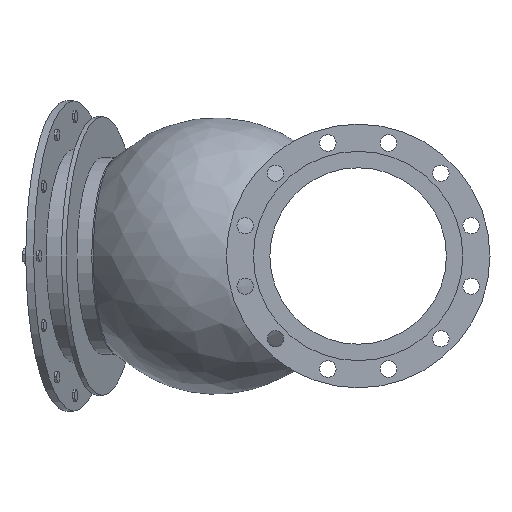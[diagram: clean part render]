
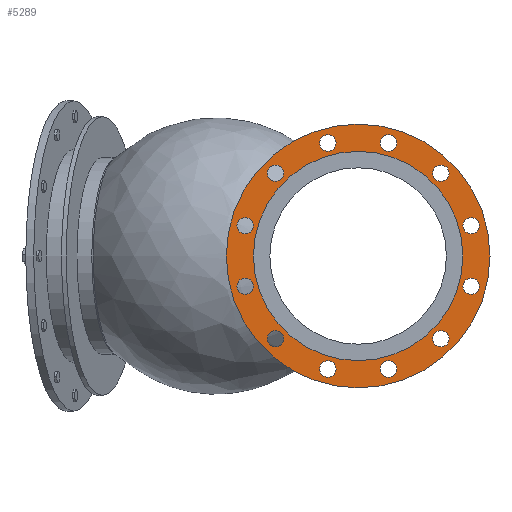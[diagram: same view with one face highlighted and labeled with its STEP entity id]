
A CAD part, left-side view. The second image highlights one B-rep face of the part: STEP entity #5289.
In plain terms, the highlighted planar face has unit normal (-1, 0, 0).
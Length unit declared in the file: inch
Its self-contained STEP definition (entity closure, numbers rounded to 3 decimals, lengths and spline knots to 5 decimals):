
#254=PLANE('',#5675);
#301=FACE_BOUND('',#966,.T.);
#302=FACE_BOUND('',#967,.T.);
#303=FACE_BOUND('',#968,.T.);
#304=FACE_BOUND('',#969,.T.);
#305=FACE_BOUND('',#970,.T.);
#306=FACE_BOUND('',#971,.T.);
#307=FACE_BOUND('',#972,.T.);
#308=FACE_BOUND('',#973,.T.);
#309=FACE_BOUND('',#974,.T.);
#310=FACE_BOUND('',#975,.T.);
#311=FACE_BOUND('',#976,.T.);
#312=FACE_BOUND('',#977,.T.);
#313=FACE_BOUND('',#978,.T.);
#657=FACE_OUTER_BOUND('',#965,.T.);
#965=EDGE_LOOP('',(#4634,#4635));
#966=EDGE_LOOP('',(#4636));
#967=EDGE_LOOP('',(#4637));
#968=EDGE_LOOP('',(#4638));
#969=EDGE_LOOP('',(#4639));
#970=EDGE_LOOP('',(#4640));
#971=EDGE_LOOP('',(#4641));
#972=EDGE_LOOP('',(#4642));
#973=EDGE_LOOP('',(#4643));
#974=EDGE_LOOP('',(#4644));
#975=EDGE_LOOP('',(#4645));
#976=EDGE_LOOP('',(#4646));
#977=EDGE_LOOP('',(#4647));
#978=EDGE_LOOP('',(#4648,#4649));
#2084=CIRCLE('',#5318,0.5);
#2086=CIRCLE('',#5321,0.5);
#2088=CIRCLE('',#5324,0.5);
#2090=CIRCLE('',#5327,0.5);
#2092=CIRCLE('',#5330,0.5);
#2094=CIRCLE('',#5333,0.5);
#2096=CIRCLE('',#5336,0.5);
#2098=CIRCLE('',#5339,0.5);
#2100=CIRCLE('',#5342,0.5);
#2102=CIRCLE('',#5345,0.5);
#2104=CIRCLE('',#5348,0.5);
#2106=CIRCLE('',#5351,0.5);
#2189=CIRCLE('',#5673,6.375);
#2190=CIRCLE('',#5674,6.375);
#2191=CIRCLE('',#5676,8.03);
#2192=CIRCLE('',#5677,8.03);
#2203=VERTEX_POINT('',#7023);
#2205=VERTEX_POINT('',#7029);
#2207=VERTEX_POINT('',#7035);
#2209=VERTEX_POINT('',#7041);
#2211=VERTEX_POINT('',#7047);
#2213=VERTEX_POINT('',#7053);
#2215=VERTEX_POINT('',#7059);
#2217=VERTEX_POINT('',#7065);
#2219=VERTEX_POINT('',#7071);
#2221=VERTEX_POINT('',#7077);
#2223=VERTEX_POINT('',#7083);
#2225=VERTEX_POINT('',#7089);
#2654=VERTEX_POINT('',#9339);
#2655=VERTEX_POINT('',#9340);
#2656=VERTEX_POINT('',#9345);
#2657=VERTEX_POINT('',#9346);
#2668=EDGE_CURVE('',#2203,#2203,#2084,.T.);
#2671=EDGE_CURVE('',#2205,#2205,#2086,.T.);
#2674=EDGE_CURVE('',#2207,#2207,#2088,.T.);
#2677=EDGE_CURVE('',#2209,#2209,#2090,.T.);
#2680=EDGE_CURVE('',#2211,#2211,#2092,.T.);
#2683=EDGE_CURVE('',#2213,#2213,#2094,.T.);
#2686=EDGE_CURVE('',#2215,#2215,#2096,.T.);
#2689=EDGE_CURVE('',#2217,#2217,#2098,.T.);
#2692=EDGE_CURVE('',#2219,#2219,#2100,.T.);
#2695=EDGE_CURVE('',#2221,#2221,#2102,.T.);
#2698=EDGE_CURVE('',#2223,#2223,#2104,.T.);
#2701=EDGE_CURVE('',#2225,#2225,#2106,.T.);
#3334=EDGE_CURVE('',#2654,#2655,#2189,.T.);
#3335=EDGE_CURVE('',#2655,#2654,#2190,.T.);
#3337=EDGE_CURVE('',#2656,#2657,#2191,.T.);
#3338=EDGE_CURVE('',#2657,#2656,#2192,.T.);
#4634=ORIENTED_EDGE('',*,*,#3337,.F.);
#4635=ORIENTED_EDGE('',*,*,#3338,.F.);
#4636=ORIENTED_EDGE('',*,*,#2668,.T.);
#4637=ORIENTED_EDGE('',*,*,#2671,.T.);
#4638=ORIENTED_EDGE('',*,*,#2674,.T.);
#4639=ORIENTED_EDGE('',*,*,#2677,.T.);
#4640=ORIENTED_EDGE('',*,*,#2680,.T.);
#4641=ORIENTED_EDGE('',*,*,#2683,.T.);
#4642=ORIENTED_EDGE('',*,*,#2686,.T.);
#4643=ORIENTED_EDGE('',*,*,#2689,.T.);
#4644=ORIENTED_EDGE('',*,*,#2692,.T.);
#4645=ORIENTED_EDGE('',*,*,#2695,.T.);
#4646=ORIENTED_EDGE('',*,*,#2698,.T.);
#4647=ORIENTED_EDGE('',*,*,#2701,.T.);
#4648=ORIENTED_EDGE('',*,*,#3334,.T.);
#4649=ORIENTED_EDGE('',*,*,#3335,.T.);
#5289=ADVANCED_FACE('',(#657,#301,#302,#303,#304,#305,#306,#307,#308,#309,
#310,#311,#312,#313),#254,.T.);
#5318=AXIS2_PLACEMENT_3D('',#7024,#5712,#5713);
#5321=AXIS2_PLACEMENT_3D('',#7030,#5719,#5720);
#5324=AXIS2_PLACEMENT_3D('',#7036,#5726,#5727);
#5327=AXIS2_PLACEMENT_3D('',#7042,#5733,#5734);
#5330=AXIS2_PLACEMENT_3D('',#7048,#5740,#5741);
#5333=AXIS2_PLACEMENT_3D('',#7054,#5747,#5748);
#5336=AXIS2_PLACEMENT_3D('',#7060,#5754,#5755);
#5339=AXIS2_PLACEMENT_3D('',#7066,#5761,#5762);
#5342=AXIS2_PLACEMENT_3D('',#7072,#5768,#5769);
#5345=AXIS2_PLACEMENT_3D('',#7078,#5775,#5776);
#5348=AXIS2_PLACEMENT_3D('',#7084,#5782,#5783);
#5351=AXIS2_PLACEMENT_3D('',#7090,#5789,#5790);
#5673=AXIS2_PLACEMENT_3D('',#9341,#6947,#6948);
#5674=AXIS2_PLACEMENT_3D('',#9342,#6949,#6950);
#5675=AXIS2_PLACEMENT_3D('',#9344,#6952,#6953);
#5676=AXIS2_PLACEMENT_3D('',#9347,#6954,#6955);
#5677=AXIS2_PLACEMENT_3D('',#9348,#6956,#6957);
#5712=DIRECTION('center_axis',(1.,0.,0.));
#5713=DIRECTION('ref_axis',(0.,0.5,0.866));
#5719=DIRECTION('center_axis',(1.,0.,0.));
#5720=DIRECTION('ref_axis',(0.,0.866,0.5));
#5726=DIRECTION('center_axis',(1.,0.,0.));
#5727=DIRECTION('ref_axis',(0.,1.,0.));
#5733=DIRECTION('center_axis',(1.,0.,0.));
#5734=DIRECTION('ref_axis',(0.,0.866,-0.5));
#5740=DIRECTION('center_axis',(1.,0.,0.));
#5741=DIRECTION('ref_axis',(0.,0.5,-0.866));
#5747=DIRECTION('center_axis',(1.,0.,0.));
#5748=DIRECTION('ref_axis',(0.,0.,-1.));
#5754=DIRECTION('center_axis',(1.,0.,0.));
#5755=DIRECTION('ref_axis',(0.,-0.5,-0.866));
#5761=DIRECTION('center_axis',(1.,0.,0.));
#5762=DIRECTION('ref_axis',(0.,-0.866,-0.5));
#5768=DIRECTION('center_axis',(1.,0.,0.));
#5769=DIRECTION('ref_axis',(0.,-1.,0.));
#5775=DIRECTION('center_axis',(1.,0.,0.));
#5776=DIRECTION('ref_axis',(0.,-0.866,0.5));
#5782=DIRECTION('center_axis',(1.,0.,0.));
#5783=DIRECTION('ref_axis',(0.,-0.5,0.866));
#5789=DIRECTION('center_axis',(1.,0.,0.));
#5790=DIRECTION('ref_axis',(0.,0.,1.));
#6947=DIRECTION('center_axis',(1.,0.,0.));
#6948=DIRECTION('ref_axis',(0.,0.,-1.));
#6949=DIRECTION('center_axis',(1.,0.,0.));
#6950=DIRECTION('ref_axis',(0.,0.,-1.));
#6952=DIRECTION('center_axis',(-1.,0.,0.));
#6953=DIRECTION('ref_axis',(0.,0.,1.));
#6954=DIRECTION('center_axis',(1.,0.,0.));
#6955=DIRECTION('ref_axis',(0.,0.,-1.));
#6956=DIRECTION('center_axis',(1.,0.,0.));
#6957=DIRECTION('ref_axis',(0.,0.,-1.));
#7023=CARTESIAN_POINT('',(-11.85,4.78814,-5.47115));
#7024=CARTESIAN_POINT('Origin',(-11.85,5.03814,-5.03814));
#7029=CARTESIAN_POINT('',(-11.85,1.41107,-7.13222));
#7030=CARTESIAN_POINT('Origin',(-11.85,1.84409,-6.88222));
#7035=CARTESIAN_POINT('',(-11.85,-2.34409,-6.88222));
#7036=CARTESIAN_POINT('Origin',(-11.85,-1.84409,-6.88222));
#7041=CARTESIAN_POINT('',(-11.85,-5.47115,-4.78814));
#7042=CARTESIAN_POINT('Origin',(-11.85,-5.03814,-5.03814));
#7047=CARTESIAN_POINT('',(-11.85,-7.13222,-1.41107));
#7048=CARTESIAN_POINT('Origin',(-11.85,-6.88222,-1.84409));
#7053=CARTESIAN_POINT('',(-11.85,-6.88222,2.34409));
#7054=CARTESIAN_POINT('Origin',(-11.85,-6.88222,1.84409));
#7059=CARTESIAN_POINT('',(-11.85,-4.78814,5.47115));
#7060=CARTESIAN_POINT('Origin',(-11.85,-5.03814,5.03814));
#7065=CARTESIAN_POINT('',(-11.85,-1.41107,7.13222));
#7066=CARTESIAN_POINT('Origin',(-11.85,-1.84409,6.88222));
#7071=CARTESIAN_POINT('',(-11.85,2.34409,6.88222));
#7072=CARTESIAN_POINT('Origin',(-11.85,1.84409,6.88222));
#7077=CARTESIAN_POINT('',(-11.85,5.47115,4.78814));
#7078=CARTESIAN_POINT('Origin',(-11.85,5.03814,5.03814));
#7083=CARTESIAN_POINT('',(-11.85,7.13222,1.41107));
#7084=CARTESIAN_POINT('Origin',(-11.85,6.88222,1.84409));
#7089=CARTESIAN_POINT('',(-11.85,6.88222,-2.34409));
#7090=CARTESIAN_POINT('Origin',(-11.85,6.88222,-1.84409));
#9339=CARTESIAN_POINT('',(-11.85,6.375,0.));
#9340=CARTESIAN_POINT('',(-11.85,-6.375,0.));
#9341=CARTESIAN_POINT('Origin',(-11.85,0.,0.));
#9342=CARTESIAN_POINT('Origin',(-11.85,0.,0.));
#9344=CARTESIAN_POINT('Origin',(-11.85,8.03,0.));
#9345=CARTESIAN_POINT('',(-11.85,8.03,0.));
#9346=CARTESIAN_POINT('',(-11.85,-8.03,0.));
#9347=CARTESIAN_POINT('Origin',(-11.85,0.,0.));
#9348=CARTESIAN_POINT('Origin',(-11.85,0.,0.));
